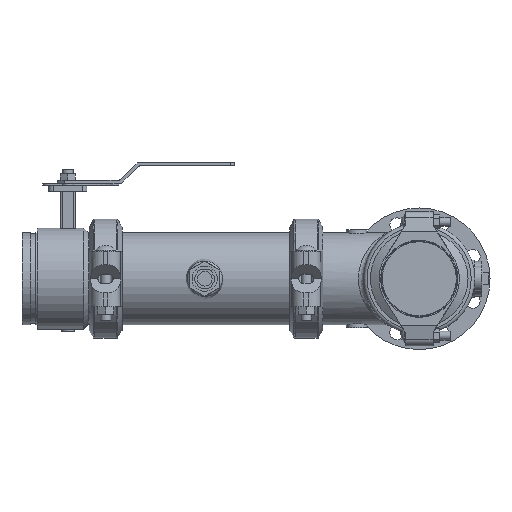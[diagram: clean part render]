
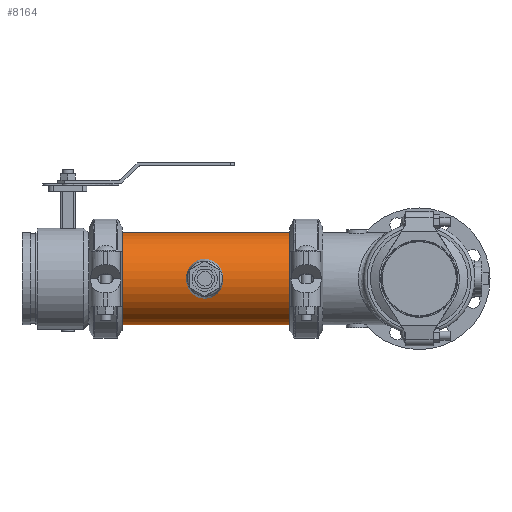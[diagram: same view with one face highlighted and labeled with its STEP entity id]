
A CAD part, left-side view. The second image highlights one B-rep face of the part: STEP entity #8164.
In plain terms, the highlighted cylindrical face has radius 84.138 mm (diameter 168.275 mm), a full revolution.
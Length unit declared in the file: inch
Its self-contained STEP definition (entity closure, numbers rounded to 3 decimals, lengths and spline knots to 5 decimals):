
#701=FACE_OUTER_BOUND('',#1204,.T.);
#1204=EDGE_LOOP('',(#6024,#6025,#6026,#6027,#6028,#6029));
#1752=CIRCLE('',#9012,3.3125);
#1753=CIRCLE('',#9013,3.3125);
#1754=CIRCLE('',#9015,3.3125);
#1755=CIRCLE('',#9016,3.3125);
#2218=LINE('',#14010,#2807);
#2807=VECTOR('',#10594,3.3125);
#3509=VERTEX_POINT('',#14001);
#3510=VERTEX_POINT('',#14002);
#3511=VERTEX_POINT('',#14006);
#3512=VERTEX_POINT('',#14007);
#4420=EDGE_CURVE('',#3509,#3510,#1752,.T.);
#4421=EDGE_CURVE('',#3510,#3509,#1753,.T.);
#4422=EDGE_CURVE('',#3511,#3512,#1754,.T.);
#4423=EDGE_CURVE('',#3512,#3511,#1755,.T.);
#4424=EDGE_CURVE('',#3512,#3510,#2218,.T.);
#6024=ORIENTED_EDGE('',*,*,#4422,.F.);
#6025=ORIENTED_EDGE('',*,*,#4423,.F.);
#6026=ORIENTED_EDGE('',*,*,#4424,.T.);
#6027=ORIENTED_EDGE('',*,*,#4421,.T.);
#6028=ORIENTED_EDGE('',*,*,#4420,.T.);
#6029=ORIENTED_EDGE('',*,*,#4424,.F.);
#7443=CYLINDRICAL_SURFACE('',#9014,3.3125);
#8164=ADVANCED_FACE('',(#701),#7443,.T.);
#9012=AXIS2_PLACEMENT_3D('',#14003,#10584,#10585);
#9013=AXIS2_PLACEMENT_3D('',#14004,#10586,#10587);
#9014=AXIS2_PLACEMENT_3D('',#14005,#10588,#10589);
#9015=AXIS2_PLACEMENT_3D('',#14008,#10590,#10591);
#9016=AXIS2_PLACEMENT_3D('',#14009,#10592,#10593);
#10584=DIRECTION('center_axis',(0.,-1.,0.));
#10585=DIRECTION('ref_axis',(1.,0.,0.));
#10586=DIRECTION('center_axis',(0.,-1.,0.));
#10587=DIRECTION('ref_axis',(1.,0.,0.));
#10588=DIRECTION('center_axis',(0.,-1.,0.));
#10589=DIRECTION('ref_axis',(1.,0.,0.));
#10590=DIRECTION('center_axis',(0.,-1.,0.));
#10591=DIRECTION('ref_axis',(1.,0.,0.));
#10592=DIRECTION('center_axis',(0.,-1.,0.));
#10593=DIRECTION('ref_axis',(1.,0.,0.));
#10594=DIRECTION('',(0.,1.,0.));
#14001=CARTESIAN_POINT('',(3.3125,6.09,0.));
#14002=CARTESIAN_POINT('',(-3.3125,6.09,0.));
#14003=CARTESIAN_POINT('Origin',(0.,6.09,0.));
#14004=CARTESIAN_POINT('Origin',(0.,6.09,0.));
#14005=CARTESIAN_POINT('Origin',(0.,0.,
0.));
#14006=CARTESIAN_POINT('',(3.3125,-6.09,0.));
#14007=CARTESIAN_POINT('',(-3.3125,-6.09,0.));
#14008=CARTESIAN_POINT('Origin',(0.,-6.09,0.));
#14009=CARTESIAN_POINT('Origin',(0.,-6.09,0.));
#14010=CARTESIAN_POINT('',(-3.3125,0.,0.));
